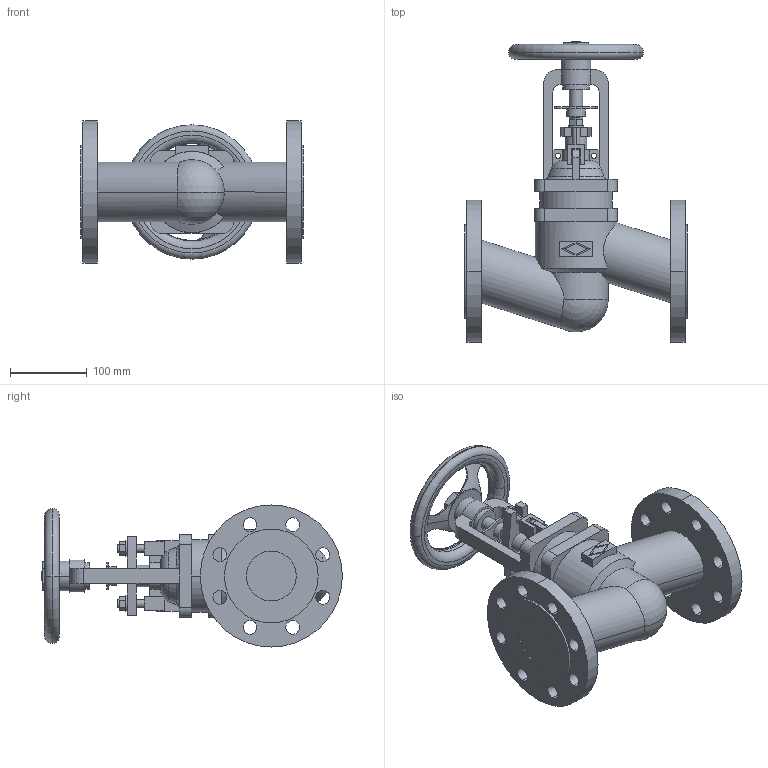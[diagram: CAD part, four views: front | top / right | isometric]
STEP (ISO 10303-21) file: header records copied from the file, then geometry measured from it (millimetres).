
FILE_DESCRIPTION(('OneSpaceDesigner STEP Export'),'2;1');
FILE_NAME('c000003741.stp','2009-06-15T13:04:12',(''),(''),'OneSpace Designer STEP processor for AP214 (Solid Model)','OneSpace Modeling 15.50B 03-Nov-2007 (C) CoCreate Software GmbH','');
FILE_SCHEMA(('AUTOMOTIVE_DESIGN { 1 0 10303 214 1 1 1 1 }'));
Length unit declared in the file: millimetre
Products named in the file (1): 1
Bounding box: 290 x 391.6 x 185 mm (x, y, z)
Volume: 3816823.5 mm3; surface area: 356511.9 mm2
Topology: 1 solids, 1 shells, 304 faces, 832 edges, 549 vertices
Faces by surface type: plane 139, cylinder 129, torus 22, cone 12, sphere 2
Entity records: 12568 total; most frequent: CARTESIAN_POINT 2784, ORIENTED_EDGE 1660, DIRECTION 1338, EDGE_CURVE 830, VERTEX_POINT 549, AXIS2_PLACEMENT_3D 461, VECTOR 416, LINE 416
